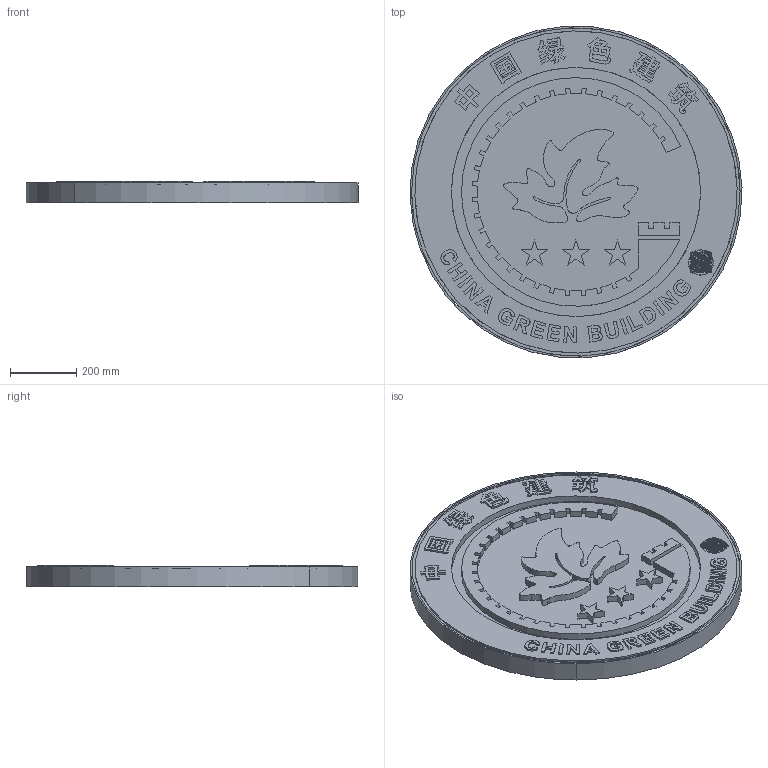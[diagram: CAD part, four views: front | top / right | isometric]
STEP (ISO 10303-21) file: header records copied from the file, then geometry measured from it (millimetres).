
FILE_DESCRIPTION(/* description */ (''),/* implementation_level */ '2;1');
FILE_NAME(/* name */ '202BDC~1',/* time_stamp */ '2021-05-11T18:11:11+08:00',/* author */ (''),/* organization */ (''),/* preprocessor_version */ 'ST-DEVELOPER v15',/* originating_system */ '',/* authorisation */ '');
FILE_SCHEMA (('AUTOMOTIVE_DESIGN'));
Length unit declared in the file: millimetre
Products named in the file (1): Document
Bounding box: 999.59 x 997.77 x 65.5 mm (x, y, z)
Volume: 41100759.1 mm3; surface area: 3279201.1 mm2
Topology: 293 solids, 293 shells, 2278 faces, 5084 edges, 3392 vertices
Faces by surface type: bspline 1463, plane 815
Entity records: 81341 total; most frequent: CARTESIAN_POINT 45904, ORIENTED_EDGE 10152, B_SPLINE_CURVE_WITH_KNOTS 5084, EDGE_CURVE 5076, VERTEX_POINT 3384, EDGE_LOOP 2320, ADVANCED_FACE 2278, FACE_OUTER_BOUND 2278
